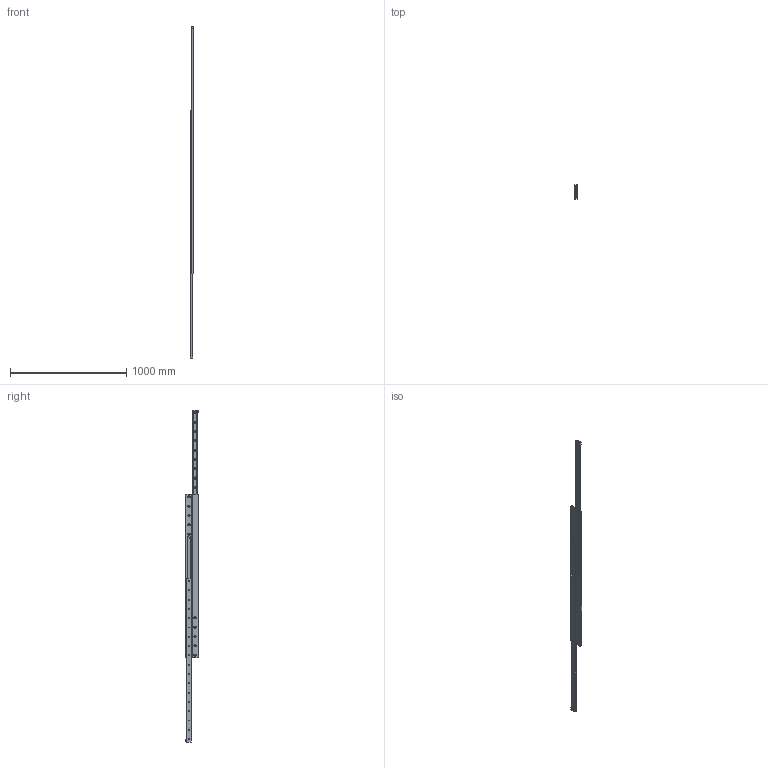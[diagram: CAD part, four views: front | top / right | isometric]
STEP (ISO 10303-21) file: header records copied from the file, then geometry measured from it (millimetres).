
FILE_DESCRIPTION(('STEP AP214'),'1');
FILE_NAME('rail_dss43-1410_01.stp','2017-04-17T04:00:18',('TraceParts'),('TraceParts S.A.'),'Spatial InterOp 3D',' ',' ');
FILE_SCHEMA(('automotive_design'));
Length unit declared in the file: millimetre
Products named in the file (3): rail_dss43-1410_01_1; rail_dss43-1410_01_2; rail_dss43-1410_01_3
Bounding box: 28 x 120 x 2856 mm (x, y, z)
Volume: 2496621.4 mm3; surface area: 1006051.4 mm2
Topology: 3 solids, 3 shells, 354 faces, 942 edges, 604 vertices
Faces by surface type: cylinder 144, plane 138, cone 72
Entity records: 11275 total; most frequent: DIRECTION 2032, CARTESIAN_POINT 1903, ORIENTED_EDGE 1884, EDGE_CURVE 942, AXIS2_PLACEMENT_3D 733, VERTEX_POINT 604, LINE 566, VECTOR 566
